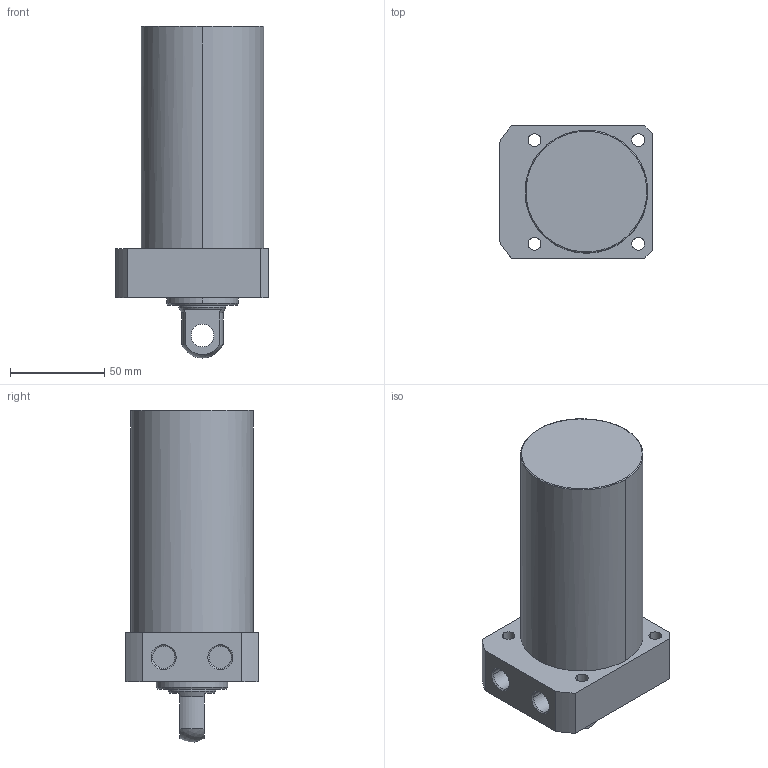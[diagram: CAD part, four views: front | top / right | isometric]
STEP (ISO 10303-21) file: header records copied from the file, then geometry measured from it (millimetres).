
FILE_DESCRIPTION((' '),'2;1');
FILE_NAME( 'TLLR-065CP-085.STEP.stp', '2025-10-24T16:35:03', (' '), ('--- Datakit www.datakit.com---'), ' Datakit CrossCadWare V2024.1 Dec 21 2023', 'Mastercam 2025', ' ');
FILE_SCHEMA(('AUTOMOTIVE_DESIGN { 1 0 10303 214 1 1 1 1 }'));
Length unit declared in the file: millimetre
Products named in the file (1): TLLR-065CP-085
Bounding box: 81 x 70 x 175.92 mm (x, y, z)
Volume: 539191 mm3; surface area: 48460 mm2
Topology: 1 solids, 1 shells, 57 faces, 164 edges, 116 vertices
Faces by surface type: cylinder 28, plane 18, cone 8, torus 2, sphere 1
Entity records: 2006 total; most frequent: DIRECTION 378, CARTESIAN_POINT 350, ORIENTED_EDGE 328, EDGE_CURVE 164, AXIS2_PLACEMENT_3D 160, VERTEX_POINT 116, CIRCLE 102, EDGE_LOOP 74
